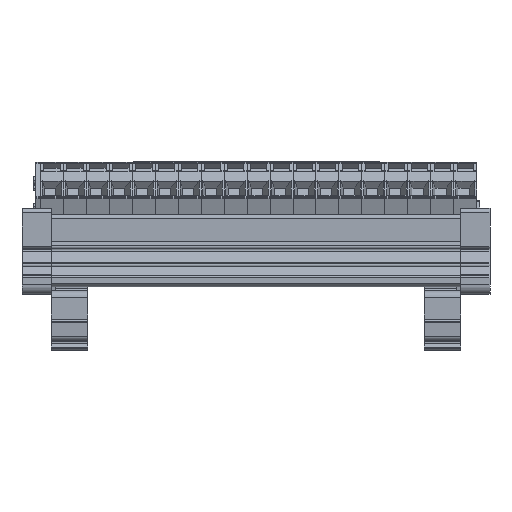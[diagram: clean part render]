
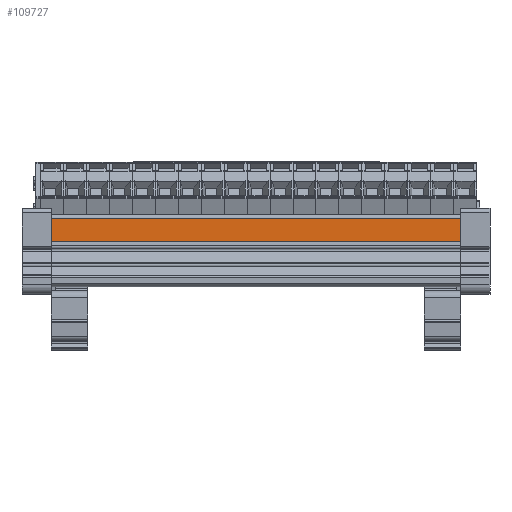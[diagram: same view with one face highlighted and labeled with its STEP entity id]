
A CAD part, front view. The second image highlights one B-rep face of the part: STEP entity #109727.
In plain terms, the highlighted planar face has unit normal (0, -1, 0).
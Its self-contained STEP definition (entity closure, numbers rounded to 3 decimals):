
#106513=DIRECTION('',(1.,0.,0.));
#106514=VECTOR('',#106513,89.184);
#106515=CARTESIAN_POINT('',(5.291,-1.213,
0.442));
#106516=LINE('',#106515,#106514);
#106520=DIRECTION('',(0.,0.,-1.));
#106521=VECTOR('',#106520,5.);
#106522=CARTESIAN_POINT('',(94.475,-1.213,
0.442));
#106523=LINE('',#106522,#106521);
#106527=DIRECTION('',(1.,0.,0.));
#106528=VECTOR('',#106527,89.184);
#106529=CARTESIAN_POINT('',(5.291,-1.213,
-4.558));
#106530=LINE('',#106529,#106528);
#106577=DIRECTION('',(0.,0.,-1.));
#106578=VECTOR('',#106577,5.);
#106579=CARTESIAN_POINT('',(5.291,-1.213,
0.442));
#106580=LINE('',#106579,#106578);
#109126=CARTESIAN_POINT('',(94.475,-1.213,
-4.558));
#109127=VERTEX_POINT('',#109126);
#109128=CARTESIAN_POINT('',(94.475,-1.213,
0.442));
#109129=VERTEX_POINT('',#109128);
#109134=CARTESIAN_POINT('',(5.291,-1.213,
0.442));
#109135=VERTEX_POINT('',#109134);
#109136=CARTESIAN_POINT('',(5.291,-1.213,
-4.558));
#109137=VERTEX_POINT('',#109136);
#109714=CARTESIAN_POINT('',(49.883,-1.213,
-2.058));
#109715=DIRECTION('',(0.,1.,0.));
#109716=DIRECTION('',(0.,0.,-1.));
#109717=AXIS2_PLACEMENT_3D('',#109714,#109715,#109716);
#109718=PLANE('',#109717);
#109719=ORIENTED_EDGE('',*,*,#109707,.T.);
#109720=ORIENTED_EDGE('',*,*,#109594,.T.);
#109722=ORIENTED_EDGE('',*,*,#109721,.F.);
#109724=ORIENTED_EDGE('',*,*,#109723,.F.);
#109725=EDGE_LOOP('',(#109719,#109720,#109722,#109724));
#109726=FACE_OUTER_BOUND('',#109725,.F.);
#109594=EDGE_CURVE('',#109129,#109127,#106523,.T.);
#109707=EDGE_CURVE('',#109135,#109129,#106516,.T.);
#109721=EDGE_CURVE('',#109137,#109127,#106530,.T.);
#109723=EDGE_CURVE('',#109135,#109137,#106580,.T.);
#109727=ADVANCED_FACE('',(#109726),#109718,.F.);
